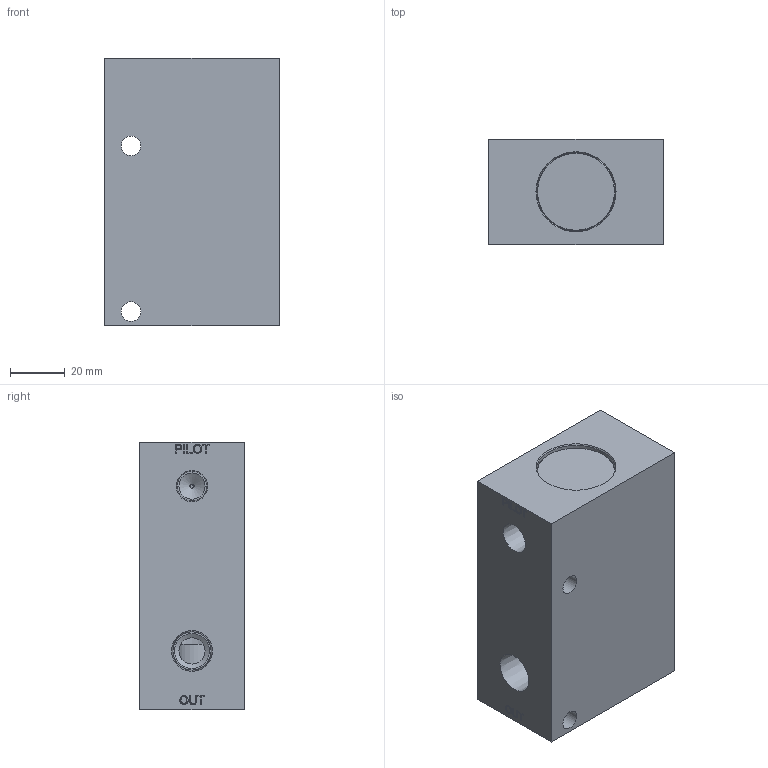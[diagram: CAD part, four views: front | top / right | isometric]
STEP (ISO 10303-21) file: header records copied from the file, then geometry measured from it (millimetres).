
FILE_DESCRIPTION(/* description */ (''),/* implementation_level */ '2;1');
FILE_NAME(/* name */ 'L:\ALADCO\Advertising\3D Content\Valves\Step Files - 2014-11-19 thru Present\32380X.stp',/* time_stamp */ '2014-11-19T14:12:18-06:00',/* author */ ('dmatz'),/* organization */ ('Aladdin Eng. & Manf. Inc.'),/* preprocessor_version */ 'ST-DEVELOPER v15.2',/* originating_system */ 'Autodesk Inventor 2014',/* authorisation */ '0 in^3');
FILE_SCHEMA (('AUTOMOTIVE_DESIGN { 1 0 10303 214 3 1 1 }'));
Length unit declared in the file: inch
Products named in the file (5): 311040; 301076; 321002; 301015; 323801
Bounding box: 63.5 x 38.1 x 97.23 mm (x, y, z)
Volume: 199337.4 mm3; surface area: 41512.6 mm2
Topology: 4 solids, 4 shells, 187 faces, 428 edges, 281 vertices
Faces by surface type: plane 100, cylinder 32, bspline 26, cone 21, torus 8
Full cylindrical faces by diameter (mm): 1.499 x1, 3.175 x1, 5.156 x1, 6.35 x2, 7.112 x2, 9.144 x1, 9.525 x3, 10.719 x1, 12.7 x3, 13.081 x1, 13.462 x1, 13.894 x2, 15.081 x1, 17.577 x1, 22.149 x1, 24.409 x1, 24.435 x1, 25.4 x2, 28.524 x4, 28.575 x2
Entity records: 5500 total; most frequent: CARTESIAN_POINT 1448, DIRECTION 716, ORIENTED_EDGE 694, EDGE_CURVE 347, EDGE_LOOP 294, VERTEX_POINT 261, AXIS2_PLACEMENT_3D 258, LINE 200
